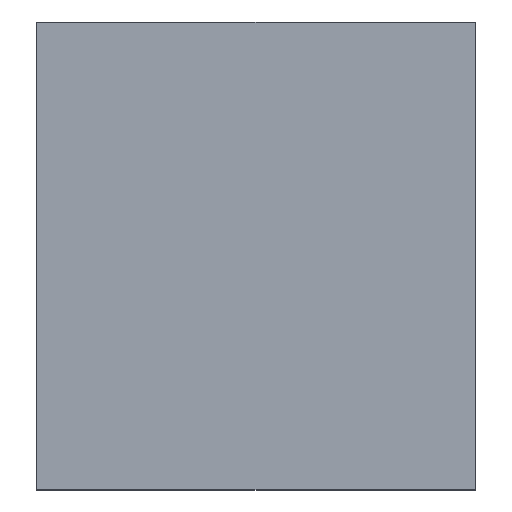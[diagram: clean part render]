
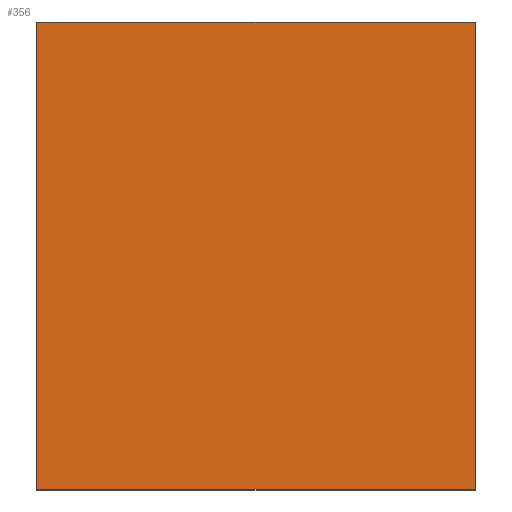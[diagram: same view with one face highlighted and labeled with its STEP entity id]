
A CAD part, top view. The second image highlights one B-rep face of the part: STEP entity #356.
In plain terms, the highlighted planar face has unit normal (0, 0, 1).
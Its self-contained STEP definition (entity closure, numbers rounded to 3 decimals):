
#42 = VERTEX_POINT('',#43);
#43 = CARTESIAN_POINT('',(-9.,-9.6,3.2));
#50 = PLANE('',#51);
#51 = AXIS2_PLACEMENT_3D('',#52,#53,#54);
#52 = CARTESIAN_POINT('',(-9.,-9.6,0.));
#53 = DIRECTION('',(1.,0.,0.));
#54 = DIRECTION('',(0.,0.,1.));
#62 = PLANE('',#63);
#63 = AXIS2_PLACEMENT_3D('',#64,#65,#66);
#64 = CARTESIAN_POINT('',(-9.,-9.6,0.));
#65 = DIRECTION('',(0.,1.,0.));
#66 = DIRECTION('',(0.,0.,1.));
#103 = VERTEX_POINT('',#104);
#104 = CARTESIAN_POINT('',(-9.,9.6,3.2));
#118 = PLANE('',#119);
#119 = AXIS2_PLACEMENT_3D('',#120,#121,#122);
#120 = CARTESIAN_POINT('',(-9.,9.6,0.));
#121 = DIRECTION('',(0.,1.,0.));
#122 = DIRECTION('',(0.,0.,1.));
#130 = EDGE_CURVE('',#42,#103,#131,.T.);
#131 = SURFACE_CURVE('',#132,(#136,#143),.PCURVE_S1.);
#132 = LINE('',#133,#134);
#133 = CARTESIAN_POINT('',(-9.,-9.6,3.2));
#134 = VECTOR('',#135,1.);
#135 = DIRECTION('',(0.,1.,0.));
#136 = PCURVE('',#50,#137);
#137 = DEFINITIONAL_REPRESENTATION('',(#138),#142);
#138 = LINE('',#139,#140);
#139 = CARTESIAN_POINT('',(3.2,0.));
#140 = VECTOR('',#141,1.);
#141 = DIRECTION('',(0.,-1.));
#142 = ( GEOMETRIC_REPRESENTATION_CONTEXT(2) 
PARAMETRIC_REPRESENTATION_CONTEXT() REPRESENTATION_CONTEXT('2D SPACE',''
  ) );
#143 = PCURVE('',#144,#149);
#144 = PLANE('',#145);
#145 = AXIS2_PLACEMENT_3D('',#146,#147,#148);
#146 = CARTESIAN_POINT('',(-9.,-9.6,3.2));
#147 = DIRECTION('',(0.,0.,1.));
#148 = DIRECTION('',(1.,0.,0.));
#149 = DEFINITIONAL_REPRESENTATION('',(#150),#154);
#150 = LINE('',#151,#152);
#151 = CARTESIAN_POINT('',(0.,0.));
#152 = VECTOR('',#153,1.);
#153 = DIRECTION('',(0.,1.));
#154 = ( GEOMETRIC_REPRESENTATION_CONTEXT(2) 
PARAMETRIC_REPRESENTATION_CONTEXT() REPRESENTATION_CONTEXT('2D SPACE',''
  ) );
#162 = VERTEX_POINT('',#163);
#163 = CARTESIAN_POINT('',(9.,-9.6,3.2));
#170 = PLANE('',#171);
#171 = AXIS2_PLACEMENT_3D('',#172,#173,#174);
#172 = CARTESIAN_POINT('',(9.,-9.6,0.));
#173 = DIRECTION('',(1.,0.,0.));
#174 = DIRECTION('',(0.,0.,1.));
#213 = VERTEX_POINT('',#214);
#214 = CARTESIAN_POINT('',(9.,9.6,3.2));
#235 = EDGE_CURVE('',#162,#213,#236,.T.);
#236 = SURFACE_CURVE('',#237,(#241,#248),.PCURVE_S1.);
#237 = LINE('',#238,#239);
#238 = CARTESIAN_POINT('',(9.,-9.6,3.2));
#239 = VECTOR('',#240,1.);
#240 = DIRECTION('',(0.,1.,0.));
#241 = PCURVE('',#170,#242);
#242 = DEFINITIONAL_REPRESENTATION('',(#243),#247);
#243 = LINE('',#244,#245);
#244 = CARTESIAN_POINT('',(3.2,0.));
#245 = VECTOR('',#246,1.);
#246 = DIRECTION('',(0.,-1.));
#247 = ( GEOMETRIC_REPRESENTATION_CONTEXT(2) 
PARAMETRIC_REPRESENTATION_CONTEXT() REPRESENTATION_CONTEXT('2D SPACE',''
  ) );
#248 = PCURVE('',#144,#249);
#249 = DEFINITIONAL_REPRESENTATION('',(#250),#254);
#250 = LINE('',#251,#252);
#251 = CARTESIAN_POINT('',(18.,0.));
#252 = VECTOR('',#253,1.);
#253 = DIRECTION('',(0.,1.));
#254 = ( GEOMETRIC_REPRESENTATION_CONTEXT(2) 
PARAMETRIC_REPRESENTATION_CONTEXT() REPRESENTATION_CONTEXT('2D SPACE',''
  ) );
#281 = EDGE_CURVE('',#42,#162,#282,.T.);
#282 = SURFACE_CURVE('',#283,(#287,#294),.PCURVE_S1.);
#283 = LINE('',#284,#285);
#284 = CARTESIAN_POINT('',(-9.,-9.6,3.2));
#285 = VECTOR('',#286,1.);
#286 = DIRECTION('',(1.,0.,0.));
#287 = PCURVE('',#62,#288);
#288 = DEFINITIONAL_REPRESENTATION('',(#289),#293);
#289 = LINE('',#290,#291);
#290 = CARTESIAN_POINT('',(3.2,0.));
#291 = VECTOR('',#292,1.);
#292 = DIRECTION('',(0.,1.));
#293 = ( GEOMETRIC_REPRESENTATION_CONTEXT(2) 
PARAMETRIC_REPRESENTATION_CONTEXT() REPRESENTATION_CONTEXT('2D SPACE',''
  ) );
#294 = PCURVE('',#144,#295);
#295 = DEFINITIONAL_REPRESENTATION('',(#296),#300);
#296 = LINE('',#297,#298);
#297 = CARTESIAN_POINT('',(0.,0.));
#298 = VECTOR('',#299,1.);
#299 = DIRECTION('',(1.,0.));
#300 = ( GEOMETRIC_REPRESENTATION_CONTEXT(2) 
PARAMETRIC_REPRESENTATION_CONTEXT() REPRESENTATION_CONTEXT('2D SPACE',''
  ) );
#328 = EDGE_CURVE('',#103,#213,#329,.T.);
#329 = SURFACE_CURVE('',#330,(#334,#341),.PCURVE_S1.);
#330 = LINE('',#331,#332);
#331 = CARTESIAN_POINT('',(-9.,9.6,3.2));
#332 = VECTOR('',#333,1.);
#333 = DIRECTION('',(1.,0.,0.));
#334 = PCURVE('',#118,#335);
#335 = DEFINITIONAL_REPRESENTATION('',(#336),#340);
#336 = LINE('',#337,#338);
#337 = CARTESIAN_POINT('',(3.2,0.));
#338 = VECTOR('',#339,1.);
#339 = DIRECTION('',(0.,1.));
#340 = ( GEOMETRIC_REPRESENTATION_CONTEXT(2) 
PARAMETRIC_REPRESENTATION_CONTEXT() REPRESENTATION_CONTEXT('2D SPACE',''
  ) );
#341 = PCURVE('',#144,#342);
#342 = DEFINITIONAL_REPRESENTATION('',(#343),#347);
#343 = LINE('',#344,#345);
#344 = CARTESIAN_POINT('',(0.,19.2));
#345 = VECTOR('',#346,1.);
#346 = DIRECTION('',(1.,0.));
#347 = ( GEOMETRIC_REPRESENTATION_CONTEXT(2) 
PARAMETRIC_REPRESENTATION_CONTEXT() REPRESENTATION_CONTEXT('2D SPACE',''
  ) );
#356 = ADVANCED_FACE('',(#357),#144,.T.);
#357 = FACE_BOUND('',#358,.T.);
#358 = EDGE_LOOP('',(#359,#360,#361,#362));
#359 = ORIENTED_EDGE('',*,*,#130,.F.);
#360 = ORIENTED_EDGE('',*,*,#281,.T.);
#361 = ORIENTED_EDGE('',*,*,#235,.T.);
#362 = ORIENTED_EDGE('',*,*,#328,.F.);
